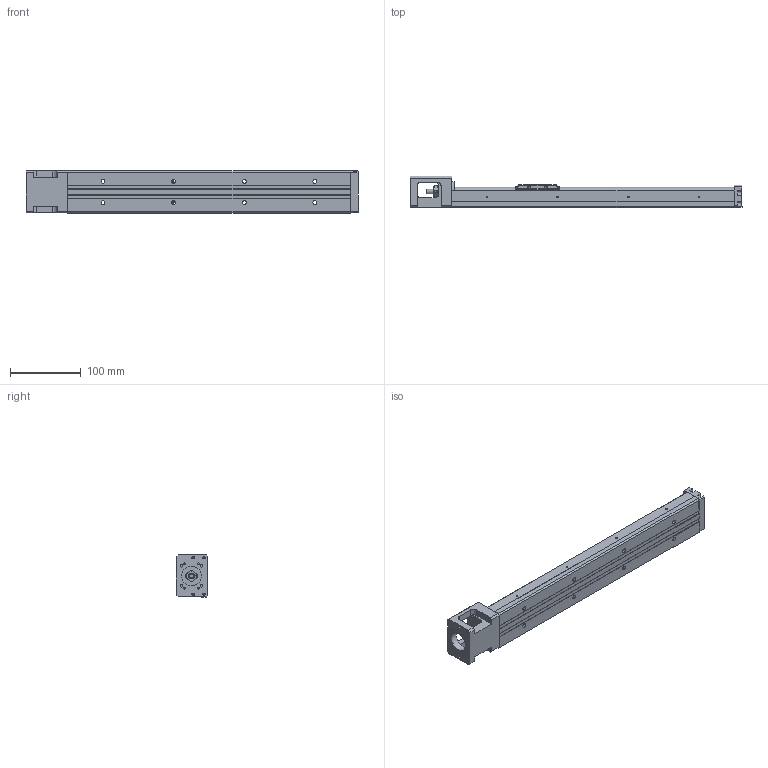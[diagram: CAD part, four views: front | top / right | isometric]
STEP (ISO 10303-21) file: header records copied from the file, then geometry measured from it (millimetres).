
FILE_DESCRIPTION(/* description */ (''),/* implementation_level */ '2;1');
FILE_NAME(/* name */ '33S-400low.stp',/* time_stamp */ '2018-02-12T11:22:36+08:00',/* author */ (''),/* organization */ (''),/* preprocessor_version */ 'ST-DEVELOPER v11',/* originating_system */ 'SIEMENS UGS NX 6.0',/* authorisation */ '');
FILE_SCHEMA (('AUTOMOTIVE_DESIGN { 1 0 10303 214 1 1 1 1 }'));
Length unit declared in the file: millimetre
Products named in the file (1): 3.069
Bounding box: 470 x 44.45 x 60 mm (x, y, z)
Volume: 504070.1 mm3; surface area: 143321.9 mm2
Topology: 5 solids, 14 shells, 623 faces, 1588 edges, 1044 vertices
Faces by surface type: plane 365, cylinder 177, bspline 31, extrusion 21, cone 20, torus 7, revolution 2
Full cylindrical faces by diameter (mm): 1.6 x3, 1.65 x4, 2.15 x4, 2.42 x4, 2.45 x2, 2.5 x12, 3.2 x4, 3.3 x4, 3.4 x4, 3.5 x10, 3.969 x1, 4 x4, 4.001 x1, 4.135 x2, 5.5 x8, 6 x5, 7.6 x1, 8 x5, 9.5 x8, 10.72 x3, 11.8 x2, 12 x6, 12.8 x1, 13 x2, 14 x1, 16 x4, 21.5 x1, 28 x1
Entity records: 34648 total; most frequent: CARTESIAN_POINT 16129, DIRECTION 2820, ORIENTED_EDGE 2772, EDGE_CURVE 1386, AXIS2_PLACEMENT_3D 991, VERTEX_POINT 978, EDGE_LOOP 872, VECTOR 836
